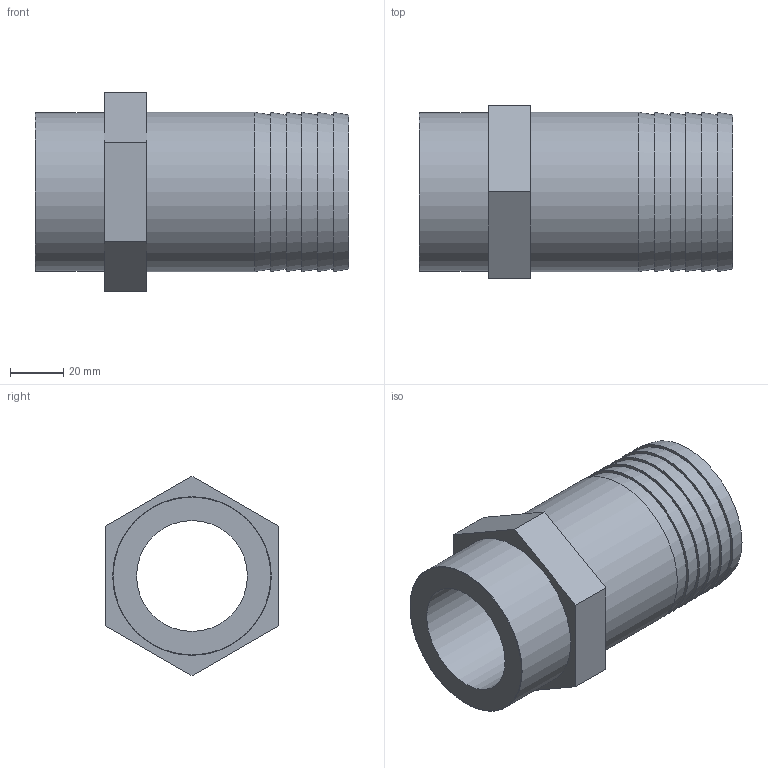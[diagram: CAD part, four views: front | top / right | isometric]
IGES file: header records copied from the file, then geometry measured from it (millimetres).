
Global section: file name: 053601060020.ipt; native system: Autodesk Inventor 2015; preprocessor: unknown; author: KIM; date: 20171207.165533; units: millimetre
Bounding box: 118 x 65 x 75.06 mm (x, y, z)
Volume: 181181.8 mm3; surface area: 43596.4 mm2
Topology: 1 solids, 1 shells, 25 faces, 50 edges, 34 vertices
Faces by surface type: plane 15, cone 6, revolution 2, cylinder 2
Full cylindrical faces by diameter (mm): 59.614 x1, 60 x1
